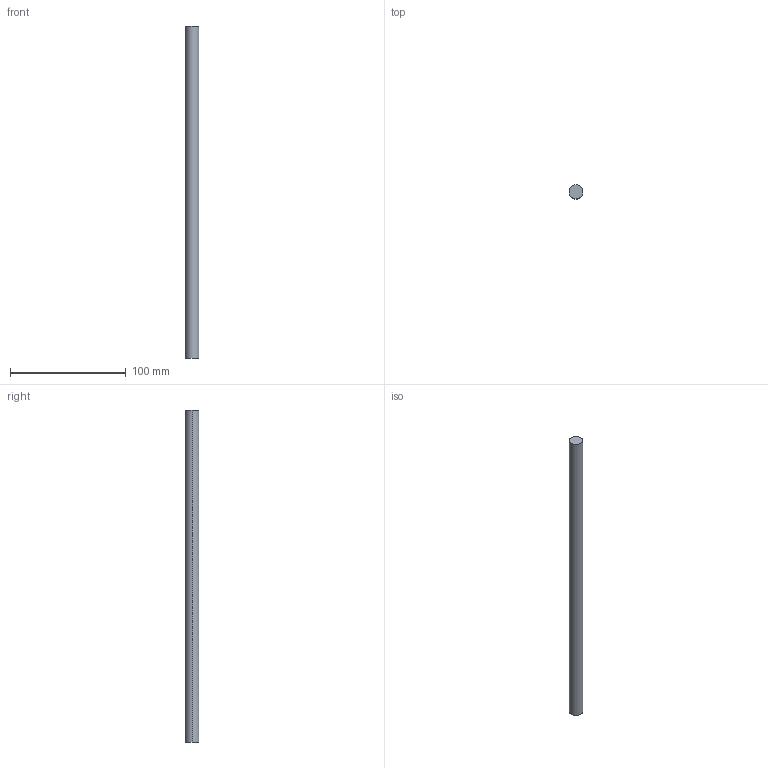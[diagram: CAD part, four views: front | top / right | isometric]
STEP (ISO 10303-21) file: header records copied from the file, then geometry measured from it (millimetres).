
FILE_DESCRIPTION (( 'STEP AP214' ), '1' );
FILE_NAME ('Innenschub H182 - S16_S17 - 400.step', '2010-09-07T14:55:57', ( 'grass' ), ( '' ), 'SwSTEP 2.0', 'SolidWorks 2010', '' );
FILE_SCHEMA (( 'AUTOMOTIVE_DESIGN' ));
Length unit declared in the file: millimetre
Products named in the file (1): Innenschub H182 - S16_S17 - 400
Bounding box: 12 x 12 x 287 mm (x, y, z)
Volume: 32458.9 mm3; surface area: 11045.8 mm2
Topology: 1 solids, 1 shells, 4 faces, 6 edges, 4 vertices
Faces by surface type: cylinder 2, plane 2
Entity records: 128 total; most frequent: DIRECTION 20, CARTESIAN_POINT 15, ORIENTED_EDGE 12, AXIS2_PLACEMENT_3D 9, EDGE_CURVE 6, ADVANCED_FACE 4, FACE_OUTER_BOUND 4, EDGE_LOOP 4
